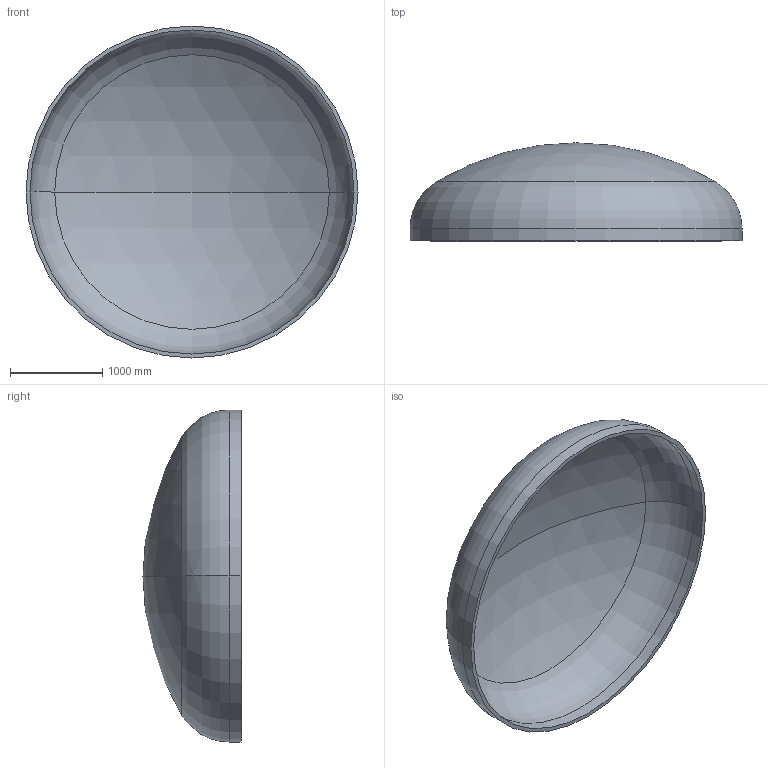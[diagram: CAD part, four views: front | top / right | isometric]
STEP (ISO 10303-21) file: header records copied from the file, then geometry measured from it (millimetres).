
FILE_DESCRIPTION (( 'STEP AP203' ), '1' );
FILE_NAME ('DIN 28013 Korbbogenform_-_Boden DIN 28013 - 3600 x 130 - I - s=43.step', '2016-07-01T20:26:41', ( '' ), ( '' ), 'SwSTEP 2.0', 'SolidWorks 2013', '' );
FILE_SCHEMA (( 'CONFIG_CONTROL_DESIGN' ));
Length unit declared in the file: millimetre
Products named in the file (1): DIN 28013 Korbbogenform_-_Boden DIN 28013 - 3600 x 130 - I - s=43
Bounding box: 3600 x 1062.82 x 3600 mm (x, y, z)
Volume: 659284779 mm3; surface area: 31148779.6 mm2
Topology: 1 solids, 1 shells, 13 faces, 24 edges, 14 vertices
Faces by surface type: torus 4, cylinder 4, sphere 4, plane 1
Entity records: 407 total; most frequent: DIRECTION 72, CARTESIAN_POINT 52, ORIENTED_EDGE 48, AXIS2_PLACEMENT_3D 34, EDGE_CURVE 24, CIRCLE 20, VERTEX_POINT 14, EDGE_LOOP 14
